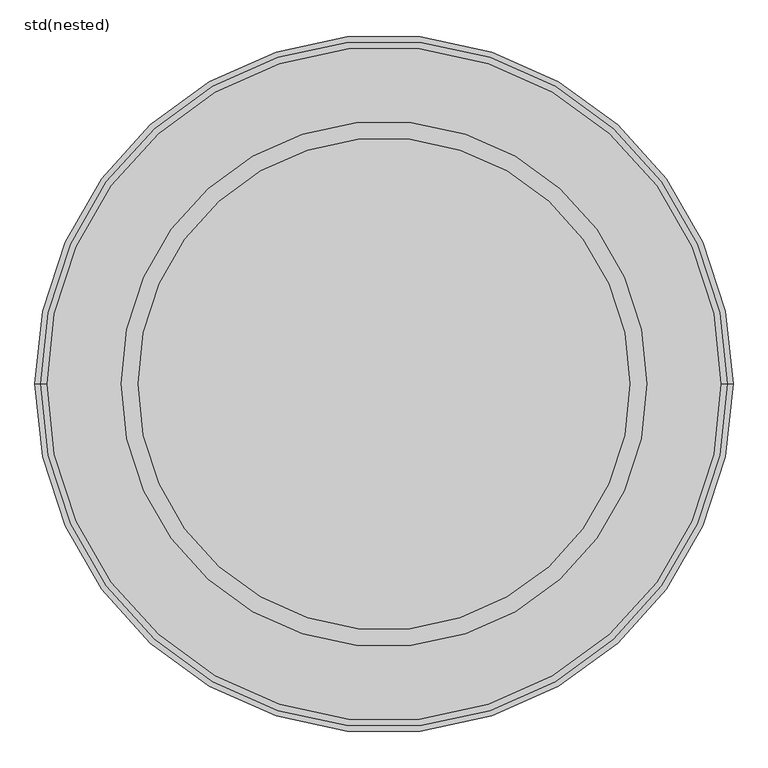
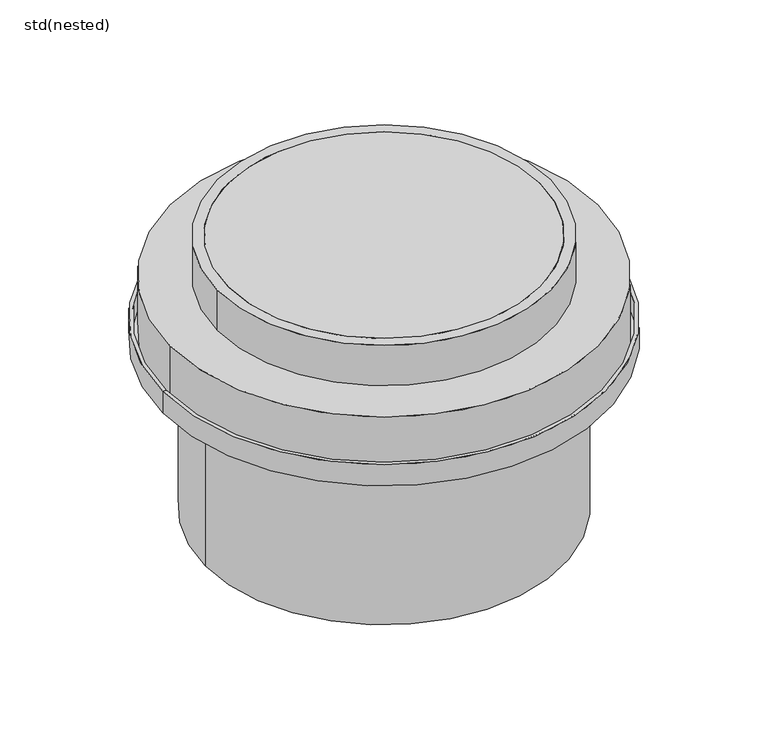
"""IFC4 building model written with IfcOpenShell, lengths in millimetres: unitary equipment geometry, ZZZ_do not use_ME_ST_WPB_top sections_plastic_ACO : std(nested)."""

from ifc_helpers import new_model, si_unit, point, frame, origin, origin_2d, place, context, project, spatial, polyline, circle_curve, trimmed, segment, composite_curve, outline, extrude, source, transform, mapped, element, save
from ifc_brep_helpers import plane_surface, cylinder_surface, revolved_surface, advanced_brep


def std_nested_ce48833b(model_context):
    return source(origin(), model_context, "Body", "SolidModel", [
        advanced_brep(
        [(-510.0, 0.0, -205.0), (510.0, 0.0, -205.0), (518.0, 0.0, -205.0), (-518.0, 0.0, -205.0), (-510.0, 0.0, -250.0), (510.0, 0.0, -250.0), (-410.0, 0.0, -250.0), (410.0, 0.0, -250.0), (-410.0, 0.0, -672.0), (410.0, 0.0, -672.0), (-418.0, 0.0, -672.0), (418.0, 0.0, -672.0), (-418.0, 0.0, -258.0), (418.0, 0.0, -258.0), (-518.0, 0.0, -258.0), (518.0, 0.0, -258.0)],
        [
            (0, 1, circle_curve(frame((0.0, 0.0, -205.0), z_axis=(0.0, 0.0, -1.0), x_axis=(1.0, 0.0, 0.0)), 510.0)),
            (1, 2),
            (2, 3, circle_curve(frame((0.0, 0.0, -205.0), z_axis=(0.0, 0.0, 1.0), x_axis=(1.0, 0.0, 0.0)), 518.0)),
            (3, 0),
            (1, 0, circle_curve(frame((0.0, 0.0, -205.0), z_axis=(0.0, 0.0, -1.0), x_axis=(1.0, 0.0, 0.0)), 510.0)),
            (3, 2, circle_curve(frame((0.0, 0.0, -205.0), z_axis=(0.0, 0.0, 1.0), x_axis=(1.0, 0.0, 0.0)), 518.0)),
            (4, 5, circle_curve(frame((0.0, 0.0, -250.0), z_axis=(0.0, 0.0, -1.0), x_axis=(1.0, 0.0, 0.0)), 510.0)),
            (5, 1),
            (0, 4),
            (5, 4, circle_curve(frame((0.0, 0.0, -250.0), z_axis=(0.0, 0.0, -1.0), x_axis=(1.0, 0.0, 0.0)), 510.0)),
            (6, 7, circle_curve(frame((0.0, 0.0, -250.0), z_axis=(0.0, 0.0, -1.0), x_axis=(1.0, 0.0, 0.0)), 410.0)),
            (7, 5),
            (4, 6),
            (7, 6, circle_curve(frame((0.0, 0.0, -250.0), z_axis=(0.0, 0.0, -1.0), x_axis=(1.0, 0.0, 0.0)), 410.0)),
            (8, 9, circle_curve(frame((0.0, 0.0, -672.0), z_axis=(0.0, 0.0, -1.0), x_axis=(1.0, 0.0, 0.0)), 410.0)),
            (9, 7),
            (6, 8),
            (9, 8, circle_curve(frame((0.0, 0.0, -672.0), z_axis=(0.0, 0.0, -1.0), x_axis=(1.0, 0.0, 0.0)), 410.0)),
            (10, 11, circle_curve(frame((0.0, 0.0, -672.0), z_axis=(0.0, 0.0, -1.0), x_axis=(1.0, 0.0, 0.0)), 418.0)),
            (11, 9),
            (8, 10),
            (11, 10, circle_curve(frame((0.0, 0.0, -672.0), z_axis=(0.0, 0.0, -1.0), x_axis=(1.0, 0.0, 0.0)), 418.0)),
            (12, 13, circle_curve(frame((0.0, 0.0, -258.0), z_axis=(0.0, 0.0, -1.0), x_axis=(1.0, 0.0, 0.0)), 418.0)),
            (13, 11),
            (10, 12),
            (13, 12, circle_curve(frame((0.0, 0.0, -258.0), z_axis=(0.0, 0.0, -1.0), x_axis=(1.0, 0.0, 0.0)), 418.0)),
            (14, 15, circle_curve(frame((0.0, 0.0, -258.0), z_axis=(0.0, 0.0, -1.0), x_axis=(1.0, 0.0, 0.0)), 518.0)),
            (15, 13),
            (12, 14),
            (15, 14, circle_curve(frame((0.0, 0.0, -258.0), z_axis=(0.0, 0.0, -1.0), x_axis=(1.0, 0.0, 0.0)), 518.0)),
            (2, 15),
            (14, 3),
        ],
        [
            plane_surface(frame((0.0, 0.0, -205.0), z_axis=(0.0, 0.0, 1.0), x_axis=(1.0, 0.0, 0.0))),
            revolved_surface(polyline([(510.0, 0.0, -205.0), (510.0, 0.0, -250.0)]), (0.0, 0.0, 240.0), (0.0, 0.0, 1.0)),
            plane_surface(frame((0.0, 0.0, -250.0), z_axis=(0.0, 0.0, 1.0), x_axis=(1.0, 0.0, 0.0))),
            revolved_surface(polyline([(410.0, 0.0, -250.0), (410.0, 0.0, -672.0)]), (0.0, 0.0, 240.0), (0.0, 0.0, 1.0)),
            plane_surface(frame((0.0, 0.0, -672.0), z_axis=(0.0, 0.0, -1.0), x_axis=(1.0, 0.0, 0.0))),
            cylinder_surface(frame((0.0, 0.0, 240.0), z_axis=(0.0, 0.0, 1.0), x_axis=(1.0, 0.0, 0.0)), 418.0),
            plane_surface(frame((0.0, 0.0, -258.0), z_axis=(0.0, 0.0, -1.0), x_axis=(1.0, 0.0, 0.0))),
            cylinder_surface(frame((0.0, 0.0, 240.0), z_axis=(0.0, 0.0, 1.0), x_axis=(1.0, 0.0, 0.0)), 518.0),
        ],
        [
            (0, [[1, 2, 3, 4]]),
            (0, [[5, -4, 6, -2]]),
            (1, [[7, 8, -1, 9]]),
            (1, [[10, -9, -5, -8]]),
            (2, [[11, 12, -7, 13]]),
            (2, [[14, -13, -10, -12]]),
            (3, [[15, 16, -11, 17]]),
            (3, [[18, -17, -14, -16]]),
            (4, [[19, 20, -15, 21]]),
            (4, [[22, -21, -18, -20]]),
            (5, [[23, 24, -19, 25]]),
            (5, [[26, -25, -22, -24]]),
            (6, [[27, 28, -23, 29]]),
            (6, [[30, -29, -26, -28]]),
            (7, [[-3, 31, -27, 32]]),
            (7, [[-6, -32, -30, -31]]),
        ],
    ),
        extrude(outline(composite_curve([segment(trimmed(circle_curve(origin_2d(), 500.0), [point((-500.0, 0.0))], [point((500.0, 0.0))], False, "CARTESIAN"), True, "CONTINUOUS"), segment(trimmed(circle_curve(origin_2d(), 500.0), [point((500.0, 0.0))], [point((-500.0, 0.0))], False, "CARTESIAN"), True, "CONTINUOUS")], self_intersect=False)), frame((0.0, 0.0, -250.0), z_axis=(0.0, 0.0, 1.0), x_axis=(1.0, 0.0, 0.0)), (0.0, 0.0, 1.0), 150.0),
        extrude(outline(composite_curve([segment(trimmed(circle_curve(origin_2d(), 365.0), [point((365.0, 0.0))], [point((-365.0, 0.0))], False, "CARTESIAN"), True, "CONTINUOUS"), segment(trimmed(circle_curve(origin_2d(), 365.0), [point((-365.0, 0.0))], [point((365.0, 0.0))], False, "CARTESIAN"), True, "CONTINUOUS")], self_intersect=False)), frame((0.0, 0.0, -100.0), z_axis=(0.0, 0.0, 1.0), x_axis=(1.0, 0.0, 0.0)), (0.0, 0.0, 1.0), 100.0),
        extrude(outline(composite_curve([segment(trimmed(circle_curve(origin_2d(), 390.0), [point((-390.0, 0.0))], [point((390.0, 0.0))], False, "CARTESIAN"), True, "CONTINUOUS"), segment(trimmed(circle_curve(origin_2d(), 390.0), [point((390.0, 0.0))], [point((-390.0, 0.0))], False, "CARTESIAN"), True, "CONTINUOUS")], self_intersect=False), holes=[composite_curve([segment(trimmed(circle_curve(origin_2d(), 365.0), [point((-365.0, 0.0))], [point((365.0, 0.0))], True, "CARTESIAN"), True, "CONTINUOUS"), segment(trimmed(circle_curve(origin_2d(), 365.0), [point((365.0, 0.0))], [point((-365.0, 0.0))], True, "CARTESIAN"), True, "CONTINUOUS")], self_intersect=False)]), frame((0.0, 0.0, -100.0), z_axis=(0.0, 0.0, 1.0), x_axis=(1.0, 0.0, 0.0)), (0.0, 0.0, 1.0), 100.0),
    ])


if __name__ == "__main__":
    model = new_model("IFC4")
    model_context = context("Model", 3, world=origin())
    ifc_project = project(units=[si_unit("LENGTHUNIT", "METRE", prefix="MILLI")], contexts=[model_context])
    site = spatial("IfcSite", under=ifc_project)
    building = spatial("IfcBuilding", under=site)
    placement = place(None, origin())
    std_nested_shape = std_nested_ce48833b(model_context)
    element("IfcUnitaryEquipment", 1, ObjectType="ZZZ_do not use_ME_ST_WPB_top sections_plastic_ACO : std(nested)", at=placement, inside=building, context=model_context, shape_type="MappedRepresentation", body=[
        mapped(std_nested_shape, transform((0.0, 0.0, 0.0), x_axis=(1.0, 0.0, 0.0), y_axis=(0.0, 1.0, 0.0), z_axis=(0.0, 0.0, 1.0))),
    ])
    save(model, "model.ifc")
